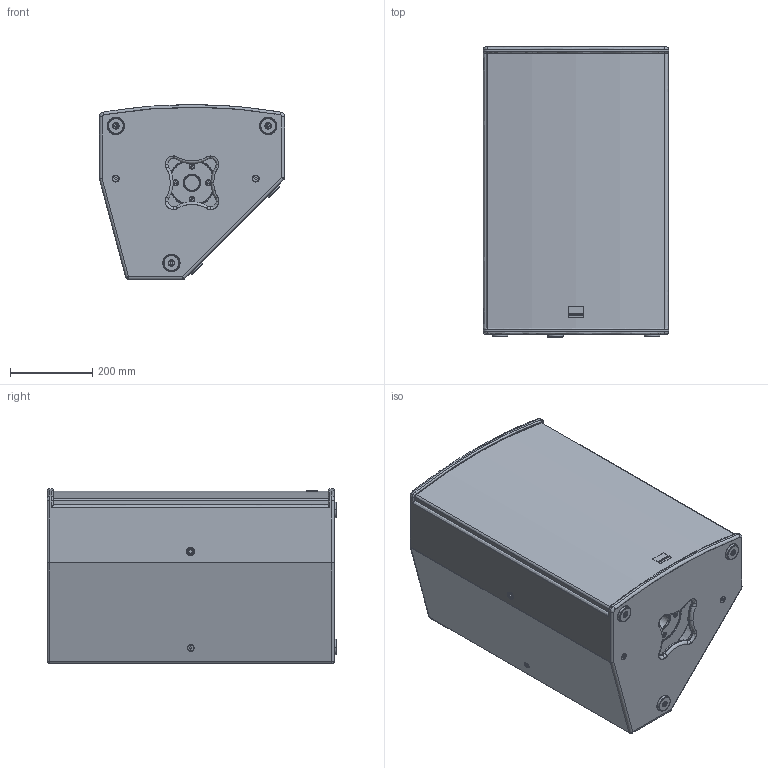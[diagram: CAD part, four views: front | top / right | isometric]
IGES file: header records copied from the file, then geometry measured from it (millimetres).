
Start section: SolidWorks IGES file using analytic representation for surfaces
Global section: file name: C:\Dokumente und Einstellungen\PC_Fabian\Desktop\3d_Dateien_Homepage\A-Serie\SEEBURG_A8.IGS; native system: SolidWorks 2009; preprocessor: SolidWorks 2009; author: PC_Fabian; date: 120928.101050; units: millimetre
Bounding box: 450 x 704 x 425 mm (x, y, z)
Surface area: 3406960.5 mm2 (no closed solid volume)
Topology: 0 solids, 0 shells, 918 faces, 11486 edges, 11484 vertices
Faces by surface type: bspline 461, revolution 457
